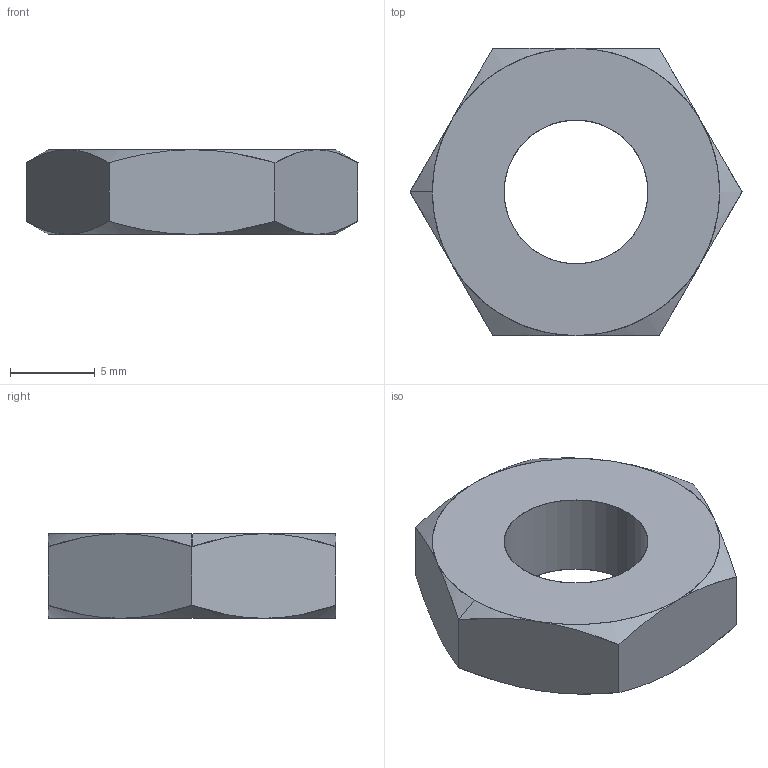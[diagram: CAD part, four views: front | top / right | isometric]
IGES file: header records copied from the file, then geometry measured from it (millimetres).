
Start section: SolidWorks IGES file using analytic representation for surfaces
Global section: file name: C:\Documents and Settings\IANO\My Documents\Wix and Auto CAD Work\CAD Models\Parametric Models\Wix Models\30000\32712_v2\32700_NUT_IGES\32700.W0515.igs; native system: SolidWorks 2009; preprocessor: SolidWorks 2009; author: IANO; date: 160630.185126; units: millimetre
Bounding box: 19.63 x 17 x 5 mm (x, y, z)
Surface area: 791.6 mm2 (no closed solid volume)
Topology: 0 solids, 0 shells, 24 faces, 370 edges, 370 vertices
Faces by surface type: revolution 16, bspline 8
